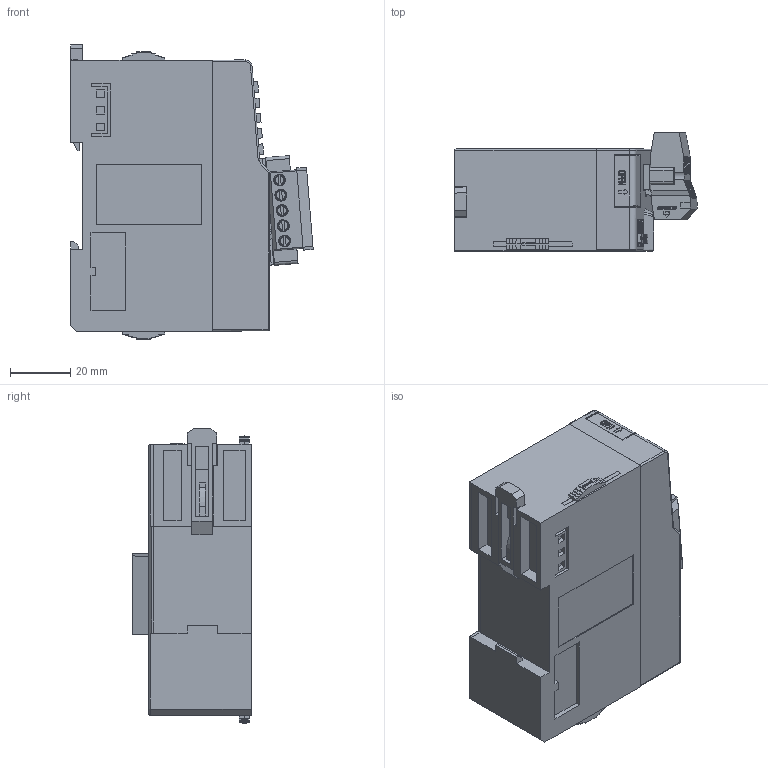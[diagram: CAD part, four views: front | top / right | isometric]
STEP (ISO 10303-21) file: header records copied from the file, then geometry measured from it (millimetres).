
FILE_DESCRIPTION(/* description */ (''),/* implementation_level */ '2;1');
FILE_NAME(/* name */ 'EX-1050.stp',/* time_stamp */ '2023-07-07T08:48:00+08:00',/* author */ (''),/* organization */ (''),/* preprocessor_version */ 'ST-DEVELOPER v16',/* originating_system */ 'SIEMENS PLM Software NX 10.0',/* authorisation */ '');
FILE_SCHEMA (('AP203_CONFIGURATION_CONTROLLED_3D_DESIGN_OF_MECHANICAL_PARTS_AND_ASSEMBLIES_MIM_LF { 1 0 10303 403 2 1 2}'));
Products named in the file (1): chao131867A6egpk
Bounding box: 80.48 x 39.35 x 97.82 mm (x, y, z)
Volume: 198317 mm3; surface area: 49608.7 mm2
Topology: 16 solids, 19 shells, 3484 faces, 9677 edges, 6326 vertices
Faces by surface type: plane 2451, cylinder 496, extrusion 220, cone 149, torus 95, bspline 65, sphere 8
Full cylindrical faces by diameter (mm): 1.2 x7, 2 x1, 4 x3, 4.1 x3, 9.8 x3
Entity records: 131500 total; most frequent: CARTESIAN_POINT 43524, ORIENTED_EDGE 19256, DIRECTION 16493, EDGE_CURVE 9628, VECTOR 6985, LINE 6765, VERTEX_POINT 6315, AXIS2_PLACEMENT_3D 4754
